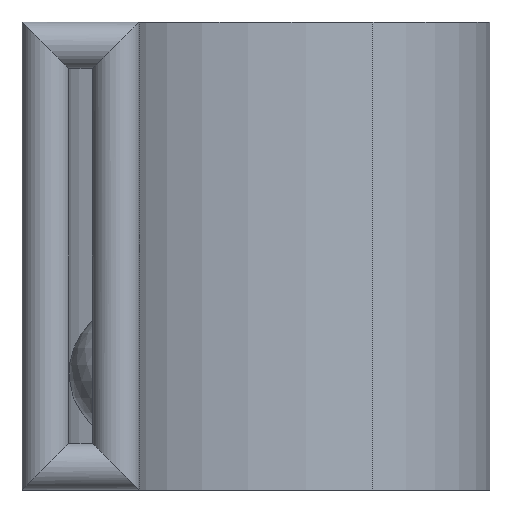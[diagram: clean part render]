
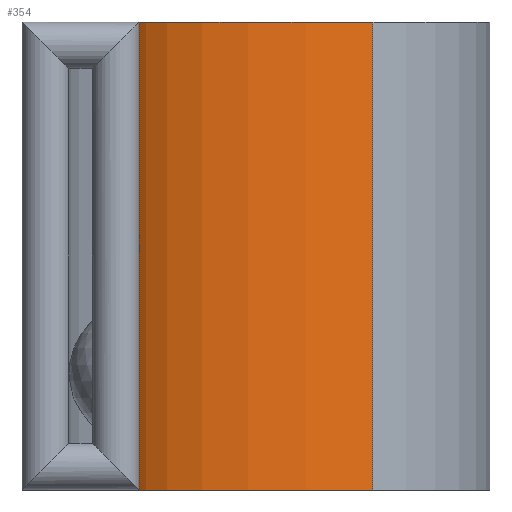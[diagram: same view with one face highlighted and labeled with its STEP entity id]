
A CAD part, left-side view. The second image highlights one B-rep face of the part: STEP entity #354.
In plain terms, the highlighted cylindrical face has radius 20 mm (diameter 40 mm), a partial arc.
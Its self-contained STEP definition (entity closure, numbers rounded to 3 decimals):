
#28=CYLINDRICAL_SURFACE('',#402,20.);
#34=LINE('',#544,#66);
#48=LINE('',#593,#80);
#66=VECTOR('',#431,10.);
#80=VECTOR('',#483,10.);
#124=FACE_OUTER_BOUND('',#144,.T.);
#144=EDGE_LOOP('',(#289,#290,#291,#292));
#158=CIRCLE('',#386,20.);
#160=CIRCLE('',#403,20.);
#169=VERTEX_POINT('',#541);
#170=VERTEX_POINT('',#543);
#173=VERTEX_POINT('',#551);
#186=VERTEX_POINT('',#592);
#200=EDGE_CURVE('',#170,#169,#34,.T.);
#205=EDGE_CURVE('',#169,#173,#158,.T.);
#225=EDGE_CURVE('',#173,#186,#48,.T.);
#226=EDGE_CURVE('',#186,#170,#160,.T.);
#289=ORIENTED_EDGE('',*,*,#205,.T.);
#290=ORIENTED_EDGE('',*,*,#225,.T.);
#291=ORIENTED_EDGE('',*,*,#226,.T.);
#292=ORIENTED_EDGE('',*,*,#200,.T.);
#354=ADVANCED_FACE('',(#124),#28,.F.);
#386=AXIS2_PLACEMENT_3D('',#553,#439,#440);
#402=AXIS2_PLACEMENT_3D('',#591,#481,#482);
#403=AXIS2_PLACEMENT_3D('',#594,#484,#485);
#431=DIRECTION('',(0.,0.,-1.));
#439=DIRECTION('center_axis',(0.,0.,-1.));
#440=DIRECTION('ref_axis',(0.5,0.866,0.));
#481=DIRECTION('center_axis',(0.,0.,1.));
#482=DIRECTION('ref_axis',(0.5,0.866,0.));
#483=DIRECTION('',(0.,0.,1.));
#484=DIRECTION('center_axis',(0.,0.,1.));
#485=DIRECTION('ref_axis',(0.5,0.866,0.));
#541=CARTESIAN_POINT('',(4.041,60.,0.));
#543=CARTESIAN_POINT('',(4.041,60.,20.));
#544=CARTESIAN_POINT('',(4.041,60.,0.));
#551=CARTESIAN_POINT('',(21.362,50.,0.));
#553=CARTESIAN_POINT('Origin',(4.041,40.,0.));
#591=CARTESIAN_POINT('Origin',(4.041,40.,0.));
#592=CARTESIAN_POINT('',(21.362,50.,20.));
#593=CARTESIAN_POINT('',(21.362,50.,0.));
#594=CARTESIAN_POINT('Origin',(4.041,40.,20.));
